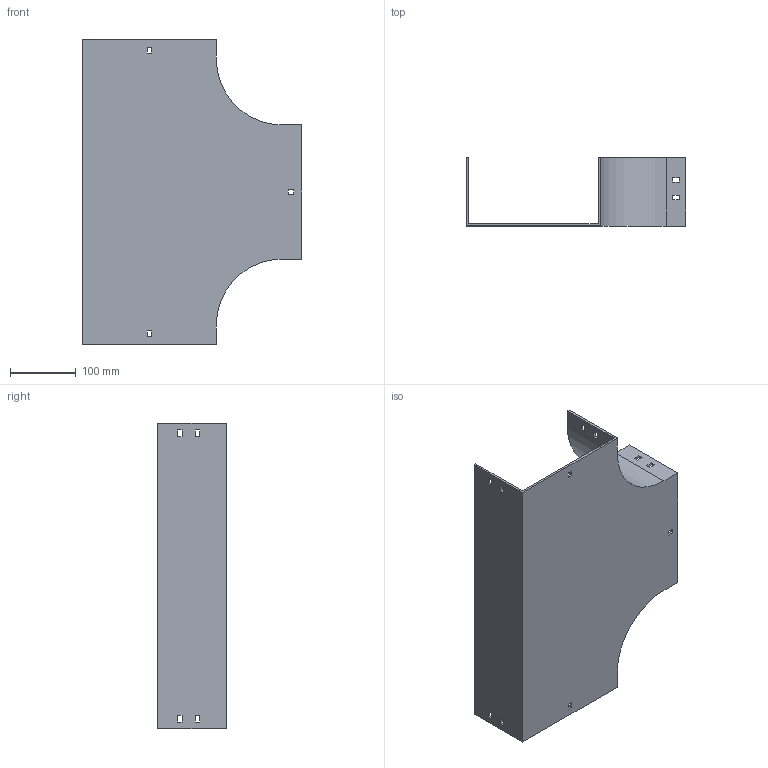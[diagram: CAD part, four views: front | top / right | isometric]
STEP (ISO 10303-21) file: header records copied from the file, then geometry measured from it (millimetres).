
FILE_DESCRIPTION (( 'STEP AP214' ), '1' );
FILE_NAME ('15F1D200.step', '2025-02-21T13:03:41', ( '' ), ( '' ), 'SwSTEP 2.0', 'SolidWorks 2023', '' );
FILE_SCHEMA (( 'AUTOMOTIVE_DESIGN' ));
Length unit declared in the file: millimetre
Products named in the file (1): 15F1D200
Bounding box: 334 x 104 x 464 mm (x, y, z)
Volume: 753445.2 mm3; surface area: 439689.7 mm2
Topology: 1 solids, 1 shells, 82 faces, 240 edges, 160 vertices
Faces by surface type: plane 78, cylinder 4
Entity records: 2755 total; most frequent: CARTESIAN_POINT 483, ORIENTED_EDGE 480, DIRECTION 414, EDGE_CURVE 240, VECTOR 232, LINE 232, VERTEX_POINT 160, EDGE_LOOP 112
